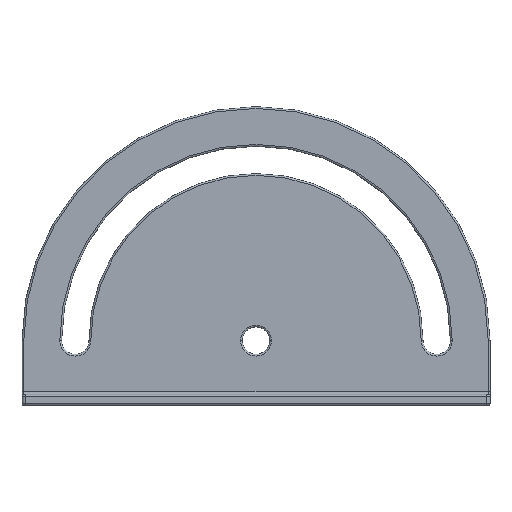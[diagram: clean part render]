
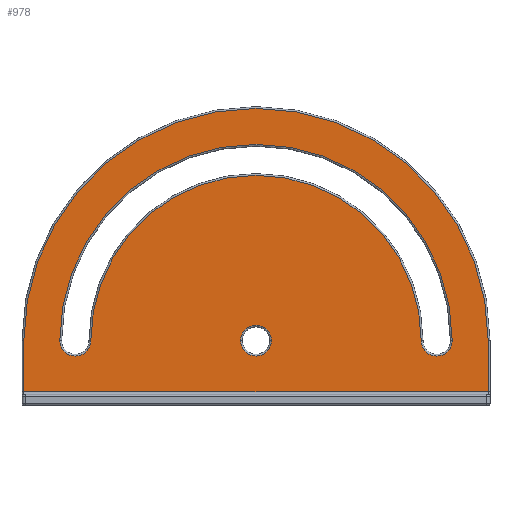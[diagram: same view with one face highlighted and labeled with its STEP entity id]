
A CAD part, top view. The second image highlights one B-rep face of the part: STEP entity #978.
In plain terms, the highlighted planar face has unit normal (0, 0, 1).
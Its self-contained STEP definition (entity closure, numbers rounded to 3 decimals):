
#56 = CIRCLE ( 'NONE', #1709, 4.3 ) ;
#84 = CARTESIAN_POINT ( 'NONE',  ( 64.5, 0.737, 0. ) ) ;
#97 = CARTESIAN_POINT ( 'NONE',  ( 0., 15., 0. ) ) ;
#105 = CIRCLE ( 'NONE', #1636, 54.5 ) ;
#120 = DIRECTION ( 'NONE',  ( 1., 0., 0. ) ) ;
#147 = DIRECTION ( 'NONE',  ( 0., 0., 1. ) ) ;
#149 = CIRCLE ( 'NONE', #1827, 64.5 ) ;
#158 = AXIS2_PLACEMENT_3D ( 'NONE', #1435, #908, #1421 ) ;
#169 = CIRCLE ( 'NONE', #1436, 4.3 ) ;
#176 = CIRCLE ( 'NONE', #1875, 4.3 ) ;
#183 = VERTEX_POINT ( 'NONE', #84 ) ;
#206 = CARTESIAN_POINT ( 'NONE',  ( -64.5, 15., 0. ) ) ;
#209 = DIRECTION ( 'NONE',  ( 0., 0., -1. ) ) ;
#278 = CARTESIAN_POINT ( 'NONE',  ( 65., 0.737, 0. ) ) ;
#281 = VERTEX_POINT ( 'NONE', #550 ) ;
#290 = FACE_BOUND ( 'NONE', #879, .T. ) ;
#309 = CARTESIAN_POINT ( 'NONE',  ( 4.3, 15., 0. ) ) ;
#325 = DIRECTION ( 'NONE',  ( 1., 0., 0. ) ) ;
#352 = AXIS2_PLACEMENT_3D ( 'NONE', #97, #569, #874 ) ;
#353 = DIRECTION ( 'NONE',  ( 0., 0., -1. ) ) ;
#399 = CIRCLE ( 'NONE', #158, 4.3 ) ;
#434 = VECTOR ( 'NONE', #672, 1000. ) ;
#445 = VERTEX_POINT ( 'NONE', #849 ) ;
#459 = EDGE_CURVE ( 'NONE', #986, #281, #1408, .T. ) ;
#480 = CARTESIAN_POINT ( 'NONE',  ( -4.3, 15., 0. ) ) ;
#493 = VERTEX_POINT ( 'NONE', #1707 ) ;
#501 = ORIENTED_EDGE ( 'NONE', *, *, #861, .F. ) ;
#522 = EDGE_CURVE ( 'NONE', #1429, #986, #399, .T. ) ;
#530 = DIRECTION ( 'NONE',  ( 1., 0., 0. ) ) ;
#542 = CARTESIAN_POINT ( 'NONE',  ( 64.5, 15., 0. ) ) ;
#550 = CARTESIAN_POINT ( 'NONE',  ( -45.9, 15., 0. ) ) ;
#569 = DIRECTION ( 'NONE',  ( 0., 0., 1. ) ) ;
#606 = FACE_BOUND ( 'NONE', #1764, .T. ) ;
#619 = DIRECTION ( 'NONE',  ( 1., 0., 0. ) ) ;
#664 = FACE_OUTER_BOUND ( 'NONE', #1064, .T. ) ;
#672 = DIRECTION ( 'NONE',  ( 0., -1., 0. ) ) ;
#700 = EDGE_CURVE ( 'NONE', #493, #1667, #981, .T. ) ;
#762 = LINE ( 'NONE', #1463, #1546 ) ;
#788 = ORIENTED_EDGE ( 'NONE', *, *, #459, .T. ) ;
#810 = ORIENTED_EDGE ( 'NONE', *, *, #1257, .T. ) ;
#820 = ORIENTED_EDGE ( 'NONE', *, *, #982, .T. ) ;
#849 = CARTESIAN_POINT ( 'NONE',  ( -54.5, 15., 0. ) ) ;
#861 = EDGE_CURVE ( 'NONE', #183, #1667, #1269, .T. ) ;
#874 = DIRECTION ( 'NONE',  ( 1., 0., 0. ) ) ;
#879 = EDGE_LOOP ( 'NONE', ( #820, #920 ) ) ;
#892 = DIRECTION ( 'NONE',  ( -1., 0., 0. ) ) ;
#908 = DIRECTION ( 'NONE',  ( 0., 0., -1. ) ) ;
#917 = CARTESIAN_POINT ( 'NONE',  ( -64.5, 0.737, 0. ) ) ;
#920 = ORIENTED_EDGE ( 'NONE', *, *, #967, .T. ) ;
#950 = VECTOR ( 'NONE', #892, 1000. ) ;
#967 = EDGE_CURVE ( 'NONE', #1171, #1350, #176, .T. ) ;
#978 = ADVANCED_FACE ( 'NONE', ( #606, #290, #664 ), #1262, .T. ) ;
#981 = LINE ( 'NONE', #206, #434 ) ;
#982 = EDGE_CURVE ( 'NONE', #1350, #1171, #169, .T. ) ;
#986 = VERTEX_POINT ( 'NONE', #1329 ) ;
#1051 = EDGE_CURVE ( 'NONE', #183, #1536, #762, .T. ) ;
#1064 = EDGE_LOOP ( 'NONE', ( #501, #1524, #1404, #1580 ) ) ;
#1117 = EDGE_CURVE ( 'NONE', #1536, #493, #149, .T. ) ;
#1130 = CARTESIAN_POINT ( 'NONE',  ( 0., 15., 0. ) ) ;
#1161 = DIRECTION ( 'NONE',  ( 0., 1., 0. ) ) ;
#1168 = EDGE_CURVE ( 'NONE', #445, #1429, #105, .T. ) ;
#1171 = VERTEX_POINT ( 'NONE', #480 ) ;
#1187 = CARTESIAN_POINT ( 'NONE',  ( 0., 15., 0. ) ) ;
#1210 = CARTESIAN_POINT ( 'NONE',  ( 0., 15., 0. ) ) ;
#1222 = DIRECTION ( 'NONE',  ( 0., 0., -1. ) ) ;
#1251 = CARTESIAN_POINT ( 'NONE',  ( -50.2, 15., 0. ) ) ;
#1257 = EDGE_CURVE ( 'NONE', #281, #445, #56, .T. ) ;
#1262 = PLANE ( 'NONE',  #352 ) ;
#1269 = LINE ( 'NONE', #278, #950 ) ;
#1278 = DIRECTION ( 'NONE',  ( 1., 0., 0. ) ) ;
#1329 = CARTESIAN_POINT ( 'NONE',  ( 45.9, 15., 0. ) ) ;
#1337 = ORIENTED_EDGE ( 'NONE', *, *, #522, .T. ) ;
#1350 = VERTEX_POINT ( 'NONE', #309 ) ;
#1404 = ORIENTED_EDGE ( 'NONE', *, *, #1117, .T. ) ;
#1408 = CIRCLE ( 'NONE', #1497, 45.9 ) ;
#1421 = DIRECTION ( 'NONE',  ( 1., 0., 0. ) ) ;
#1429 = VERTEX_POINT ( 'NONE', #1466 ) ;
#1435 = CARTESIAN_POINT ( 'NONE',  ( 50.2, 15., 0. ) ) ;
#1436 = AXIS2_PLACEMENT_3D ( 'NONE', #1187, #1222, #619 ) ;
#1463 = CARTESIAN_POINT ( 'NONE',  ( 64.5, 15., 0. ) ) ;
#1466 = CARTESIAN_POINT ( 'NONE',  ( 54.5, 15., 0. ) ) ;
#1483 = DIRECTION ( 'NONE',  ( 0., 0., 1. ) ) ;
#1497 = AXIS2_PLACEMENT_3D ( 'NONE', #1130, #147, #1528 ) ;
#1524 = ORIENTED_EDGE ( 'NONE', *, *, #1051, .T. ) ;
#1528 = DIRECTION ( 'NONE',  ( 1., 0., 0. ) ) ;
#1536 = VERTEX_POINT ( 'NONE', #542 ) ;
#1546 = VECTOR ( 'NONE', #1161, 1000. ) ;
#1580 = ORIENTED_EDGE ( 'NONE', *, *, #700, .T. ) ;
#1599 = CARTESIAN_POINT ( 'NONE',  ( 0., 15., 0. ) ) ;
#1636 = AXIS2_PLACEMENT_3D ( 'NONE', #1210, #1830, #530 ) ;
#1667 = VERTEX_POINT ( 'NONE', #917 ) ;
#1707 = CARTESIAN_POINT ( 'NONE',  ( -64.5, 15., 0. ) ) ;
#1709 = AXIS2_PLACEMENT_3D ( 'NONE', #1251, #353, #120 ) ;
#1764 = EDGE_LOOP ( 'NONE', ( #1337, #788, #810, #1888 ) ) ;
#1827 = AXIS2_PLACEMENT_3D ( 'NONE', #1599, #1483, #325 ) ;
#1830 = DIRECTION ( 'NONE',  ( 0., 0., -1. ) ) ;
#1875 = AXIS2_PLACEMENT_3D ( 'NONE', #1894, #209, #1278 ) ;
#1888 = ORIENTED_EDGE ( 'NONE', *, *, #1168, .T. ) ;
#1894 = CARTESIAN_POINT ( 'NONE',  ( 0., 15., 0. ) ) ;
